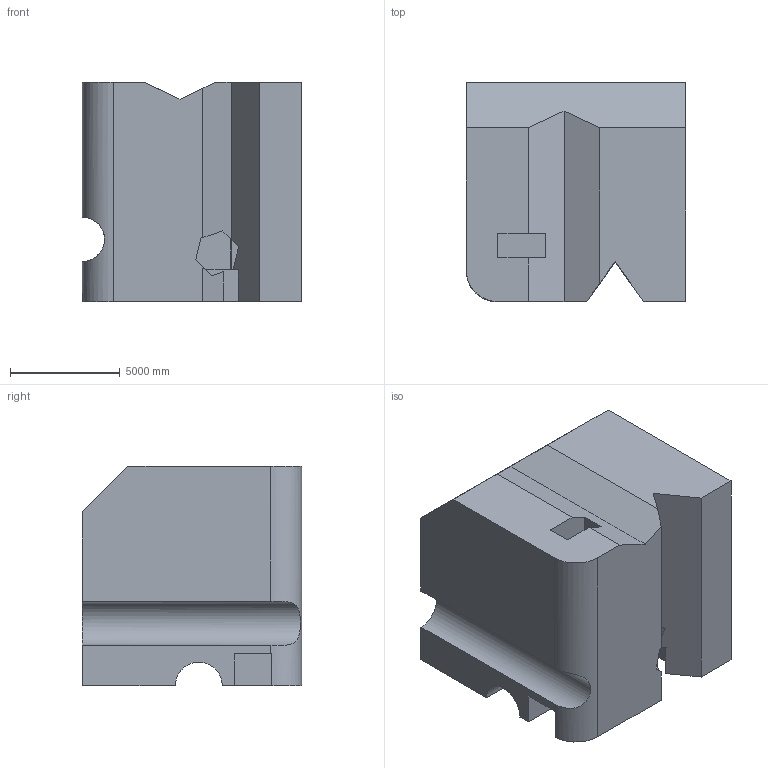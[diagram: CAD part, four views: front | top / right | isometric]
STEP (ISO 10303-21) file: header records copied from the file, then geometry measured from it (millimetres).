
FILE_DESCRIPTION (( 'STEP AP203' ), '1' );
FILE_NAME ('1888.STEP', '2022-08-19T13:59:49', ( 'user' ), ( '' ), 'SwSTEP 2.0', 'SolidWorks 2021', '' );
FILE_SCHEMA (( 'CONFIG_CONTROL_DESIGN' ));
Length unit declared in the file: centimetre
Products named in the file (1): 1888
Bounding box: 10000 x 10000 x 10000 mm (x, y, z)
Volume: 873049800533.8 mm3; surface area: 666879057.6 mm2
Topology: 1 solids, 1 shells, 41 faces, 114 edges, 76 vertices
Faces by surface type: plane 38, cylinder 3
Entity records: 1559 total; most frequent: CARTESIAN_POINT 422, ORIENTED_EDGE 228, DIRECTION 203, EDGE_CURVE 114, LINE 107, VECTOR 107, VERTEX_POINT 76, AXIS2_PLACEMENT_3D 48
